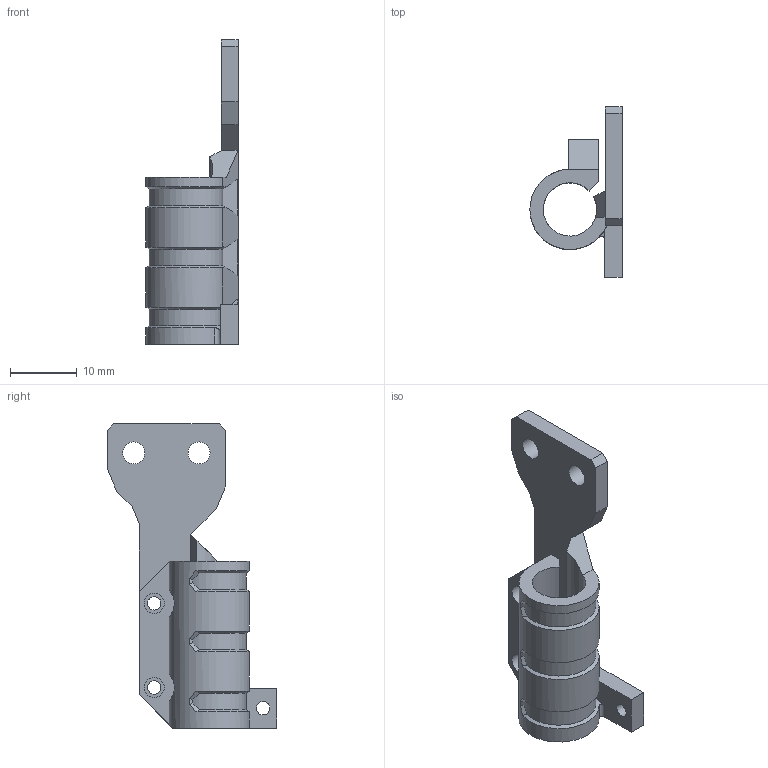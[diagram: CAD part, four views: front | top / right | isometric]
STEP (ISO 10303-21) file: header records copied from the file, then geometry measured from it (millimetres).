
FILE_DESCRIPTION(/* description */ (''),/* implementation_level */ '2;1');
FILE_NAME(/* name */ 'Y:/Inductive Probe Mount LJ8.step',/* time_stamp */ '2022-04-02T16:45:06+02:00',/* author */ (''),/* organization */ (''),/* preprocessor_version */ 'ST-DEVELOPER v18.1',/* originating_system */ 'Autodesk Translation Framework v10.14.0.1471',/* authorisation */ '');
FILE_SCHEMA (('AUTOMOTIVE_DESIGN { 1 0 10303 214 3 1 1 }'));
Length unit declared in the file: millimetre
Products named in the file (1): Inductive Probe Mounts - LJ8_probe_mount
Bounding box: 13.8 x 25.39 x 45.56 mm (x, y, z)
Volume: 3165.1 mm3; surface area: 3431.8 mm2
Topology: 1 solids, 1 shells, 63 faces, 182 edges, 121 vertices
Faces by surface type: plane 35, cylinder 15, cone 7, bspline 6
Full cylindrical faces by diameter (mm): 2 x3, 3 x2, 3.3 x2
Entity records: 2267 total; most frequent: CARTESIAN_POINT 612, ORIENTED_EDGE 364, DIRECTION 295, EDGE_CURVE 182, VERTEX_POINT 121, LINE 105, VECTOR 105, AXIS2_PLACEMENT_3D 95
